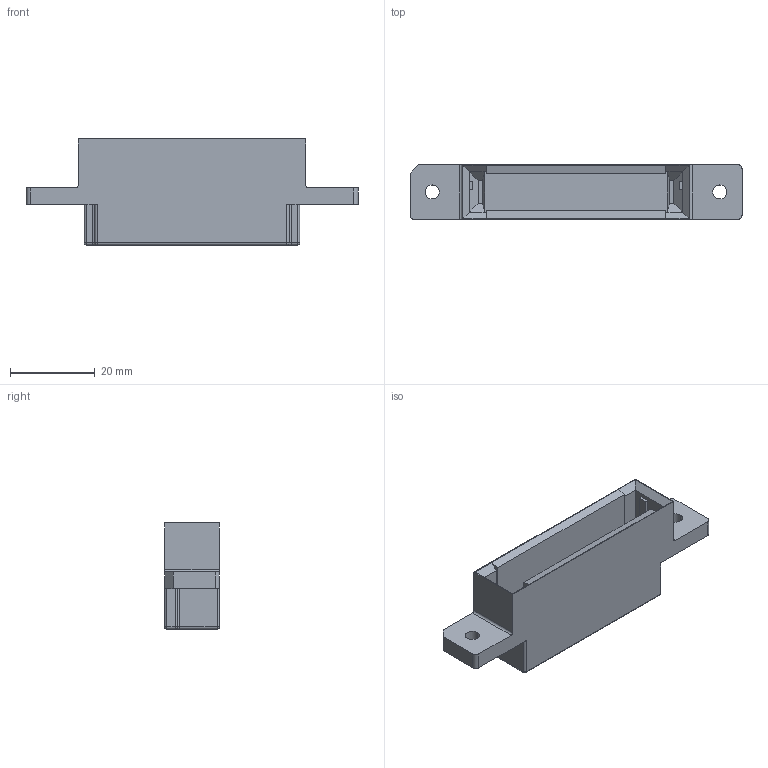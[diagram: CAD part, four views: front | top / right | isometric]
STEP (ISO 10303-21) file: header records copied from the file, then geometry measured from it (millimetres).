
FILE_DESCRIPTION(('CoCreate Modeling STEP Export'),'2;1');
FILE_NAME('P3C004_FA12-034.stp','2017-07-27T16:31:05',(''),(''),'CoCreate Modeling STEP processor for AP214 (Solid Model)','CoCreate Modeling 17.0B 09-Oct-2010 (C) Parametric Technology GmbH','');
FILE_SCHEMA(('AUTOMOTIVE_DESIGN { 1 0 10303 214 1 1 1 1 }'));
Length unit declared in the file: millimetre
Products named in the file (2): FA12-034
Assembly tree (1 placements, depth 2):
  FA12-034
    FA12-034
Bounding box: 78.2 x 12.9 x 25 mm (x, y, z)
Volume: 12414.5 mm3; surface area: 6925.3 mm2
Topology: 1 solids, 1 shells, 541 faces, 1480 edges, 970 vertices
Faces by surface type: plane 508, cylinder 25, sphere 6, torus 2
Entity records: 16526 total; most frequent: ORIENTED_EDGE 2948, CARTESIAN_POINT 2934, DIRECTION 2528, EDGE_CURVE 1474, VECTOR 1400, LINE 1400, VERTEX_POINT 970, EDGE_LOOP 580
